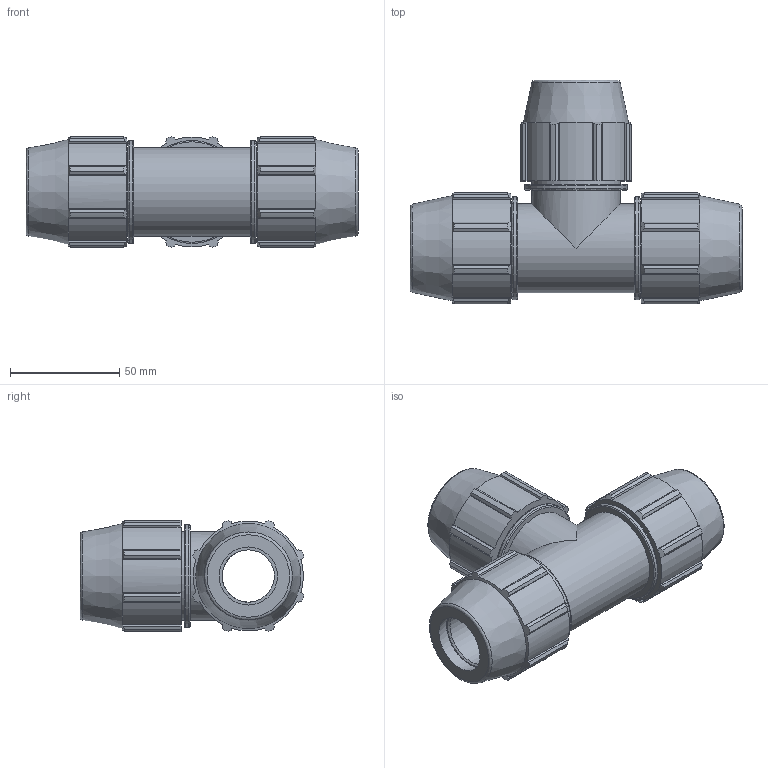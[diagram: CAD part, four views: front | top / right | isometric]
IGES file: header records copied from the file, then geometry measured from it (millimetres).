
Global section: file name: 0704M0070.ipt; native system: Autodesk Inventor 2019; preprocessor: unknown; author: KIM; date: 20210826.124537; units: inch
Bounding box: 151.89 x 102.42 x 50.91 mm (x, y, z)
Volume: 233337.3 mm3; surface area: 56377.7 mm2
Topology: 1 solids, 1 shells, 212 faces, 605 edges, 410 vertices
Faces by surface type: plane 114, cylinder 56, cone 22, revolution 20
Full cylindrical faces by diameter (mm): 40.576 x5, 47.069 x3
